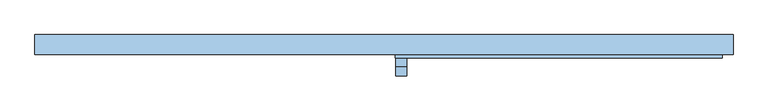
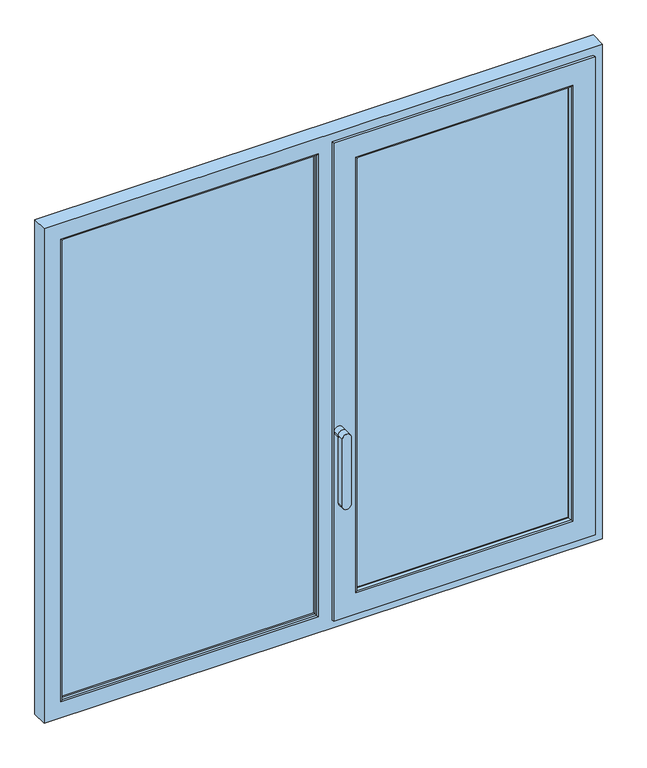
"""IFC4 building model written with IfcOpenShell, lengths in millimetres: window geometry, Single sash with fix filed : Single sash with fix filed."""

from ifc_helpers import new_model, si_unit, frame, origin, place, context, project, spatial, polyline, circle_curve, ellipse_curve, outline, extrude, source, transform, mapped, element, save
from ifc_brep_helpers import plane_surface, cylinder_surface, advanced_brep


def window_5d94b024(model_context):
    return source(origin(), model_context, "Body", "SolidModel", [
        advanced_brep(
        [(26.4, -65.0000609, 1402.0), (26.4, -65.0000609, 1202.0), (51.4, -65.0000609, 1202.0), (51.4, -65.0000609, 1402.0), (51.4, -45.0000609, 1402.0), (51.4, -45.0000609, 1202.0), (26.4, -45.0000609, 1202.0), (26.4, -45.0000609, 1402.0), (26.4, -25.0000609, 1402.0), (51.4, -25.0000609, 1402.0)],
        [
            (0, 1),
            (1, 2, circle_curve(frame((38.9, -65.0000609, 1202.0), z_axis=(0.0, -1.0, 0.0), x_axis=(1.0, 0.0, 0.0)), 12.5)),
            (2, 3),
            (3, 0, circle_curve(frame((38.9, -65.0000609, 1402.0), z_axis=(0.0, -1.0, 0.0), x_axis=(1.0, 0.0, 0.0)), 12.5)),
            (4, 5),
            (5, 6, circle_curve(frame((38.9, -45.0000609, 1202.0), z_axis=(0.0, 1.0, 0.0), x_axis=(1.0, 0.0, 0.0)), 12.5)),
            (6, 7),
            (7, 4, circle_curve(frame((38.9, -45.0000609, 1402.0), z_axis=(0.0, -1.0, 0.0), x_axis=(1.0, 0.0, 0.0)), 12.5)),
            (0, 7),
            (6, 1),
            (5, 2),
            (4, 3),
            (4, 7, circle_curve(frame((38.9, -45.0000609, 1402.0), z_axis=(0.0, -1.0, 0.0), x_axis=(1.0, 0.0, 0.0)), 12.5)),
            (8, 9, circle_curve(frame((38.9, -25.0000609, 1402.0), z_axis=(0.0, 1.0, 0.0), x_axis=(1.0, 0.0, 0.0)), 12.5)),
            (9, 8, circle_curve(frame((38.9, -25.0000609, 1402.0), z_axis=(0.0, 1.0, 0.0), x_axis=(1.0, 0.0, 0.0)), 12.5)),
            (9, 4),
            (7, 8),
        ],
        [
            plane_surface(frame((26.4, -65.0000609, 1402.0), z_axis=(0.0, -1.0, 0.0), x_axis=(0.0, 0.0, -1.0))),
            plane_surface(frame((26.4, -45.0000609, 1402.0), z_axis=(0.0, 1.0, 0.0), x_axis=(0.0, 0.0, 1.0))),
            plane_surface(frame((26.4, -65.0000609, 1402.0), z_axis=(-1.0, 0.0, 0.0), x_axis=(0.0, 1.0, 0.0))),
            cylinder_surface(frame((38.9, -45.0000609, 1202.0), z_axis=(0.0, -1.0, 0.0), x_axis=(1.0, 0.0, 0.0)), 12.5),
            plane_surface(frame((51.4, -65.0000609, 1202.0), z_axis=(1.0, 0.0, 0.0), x_axis=(0.0, 1.0, 0.0))),
            cylinder_surface(frame((38.9, -45.0000609, 1402.0), z_axis=(0.0, -1.0, 0.0), x_axis=(1.0, 0.0, 0.0)), 12.5),
            plane_surface(frame((51.4, -25.0000609, 1402.0), z_axis=(0.0, 1.0, 0.0), x_axis=(0.0, 0.0, -1.0))),
            cylinder_surface(frame((38.9, -25.0000609, 1402.0), z_axis=(0.0, -1.0, 0.0), x_axis=(1.0, 0.0, 0.0)), 12.5),
        ],
        [
            (0, [[1, 2, 3, 4]]),
            (1, [[5, 6, 7, 8]]),
            (2, [[-1, 9, -7, 10]]),
            (3, [[-2, -10, -6, 11]]),
            (4, [[-3, -11, -5, 12]]),
            (5, [[-4, -12, 13, -9]]),
            (6, [[14, 15]]),
            (7, [[-15, 16, -8, 17]]),
            (7, [[-14, -17, -13, -16]]),
        ],
    ),
        extrude(outline(polyline([(78.4966345, 12.9350572), (711.5033655, 12.9350572), (711.5033655, -11.0649428), (78.4966345, -11.0649428), (78.4966345, 12.9350572)])), frame((0.0, 0.0, 888.4966345), z_axis=(0.0, 0.0, 1.0), x_axis=(1.0, 0.0, 0.0)), (0.0, 0.0, 1.0), 1323.006731),
        advanced_brep(
        [(698.2794983, -22.8333998, 2198.2794983), (696.499977, -15.5000609, 2196.499977), (696.499977, -15.5000609, 903.500023), (698.2794983, -22.8333998, 901.7205017), (696.499977, -11.0649428, 2196.499977), (696.499977, -11.0649428, 903.500023), (93.500023, -15.5000609, 903.500023), (91.7205017, -22.8333998, 901.7205017), (701.834617, -25.0000609, 2201.834617), (701.834617, -25.0000609, 898.165383), (711.5033655, -11.0649428, 888.4966345), (78.4966345, -11.0649428, 888.4966345), (78.4966345, -11.0649428, 2211.5033655), (711.5033655, -11.0649428, 2211.5033655), (93.500023, -11.0649428, 2196.499977), (93.500023, -11.0649428, 903.500023), (711.5033655, 12.9350572, 2211.5033655), (711.5033655, 12.9350572, 888.4966345), (78.4966345, 12.9350572, 2211.5033655), (78.4966345, 12.9350572, 888.4966345), (696.499969, 12.9350572, 903.500031), (93.500031, 12.9350572, 903.500031), (93.500031, 12.9350572, 2196.499969), (696.499969, 12.9350572, 2196.499969), (696.499969, 22.5000001, 2196.499969), (696.499969, 22.5000001, 903.500031), (701.999969, 28.0000001, 2201.999969), (701.999969, 28.0000001, 898.000031), (93.500031, 22.5000001, 903.500031), (731.9999918, 28.0, 868.0000082), (58.0000082, 28.0, 868.0000082), (58.0000082, 28.0, 2231.9999918), (731.9999918, 28.0, 2231.9999918), (88.000031, 28.0, 2201.999969), (88.000031, 28.0, 898.000031), (731.9999918, 20.0000001, 2231.9999918), (731.9999918, 20.0000001, 868.0000082), (747.4999476, 20.0000001, 852.5000524), (42.5000524, 20.0000001, 852.5000524), (42.5000524, 20.0000001, 2247.4999476), (747.4999476, 20.0000001, 2247.4999476), (58.0000082, 20.0000001, 2231.9999918), (58.0000082, 20.0000001, 868.0000082), (747.4999476, -17.0083924, 2247.4999476), (747.4999476, -17.0083924, 852.5000524), (765.0, -17.0083924, 835.0), (25.0, -17.0083924, 835.0), (25.0, -17.0083924, 2265.0), (765.0, -17.0083924, 2265.0), (42.5000524, -17.0083924, 2247.4999476), (42.5000524, -17.0083924, 852.5000524), (765.0, -25.0000609, 2265.0), (765.0, -25.0000609, 835.0), (25.0, -25.0000609, 2265.0), (25.0, -25.0000609, 835.0), (88.165383, -25.0000609, 898.165383), (88.165383, -25.0000609, 2201.834617), (93.500023, -15.5000609, 2196.499977), (91.7205017, -22.8333998, 2198.2794983), (93.500031, 22.5000001, 2196.499969)],
        [
            (0, 1, ellipse_curve(frame((712.499941, -15.5000609, 2212.499941), z_axis=(0.7071067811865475, 0.0, -0.7071067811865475), x_axis=(0.7071067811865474, 0.0, 0.7071067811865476)), 22.6273661, 15.999964)),
            (1, 2),
            (2, 3, ellipse_curve(frame((712.499941, -15.5000609, 887.500059), z_axis=(0.7071067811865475, 0.0, 0.7071067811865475), x_axis=(-0.7071067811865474, 0.0, 0.7071067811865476)), 22.6273661, 15.999964)),
            (3, 0),
            (1, 4),
            (4, 5),
            (5, 2),
            (2, 6),
            (6, 7, ellipse_curve(frame((77.500059, -15.5000609, 887.500059), z_axis=(0.7071067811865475, 0.0, -0.7071067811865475), x_axis=(0.7071067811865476, 0.0, 0.7071067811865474)), 22.6273661, 15.999964)),
            (7, 3),
            (8, 0, ellipse_curve(frame((701.834617, -21.0000609, 2201.834617), z_axis=(0.7071067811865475, 0.0, -0.7071067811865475), x_axis=(0.7071067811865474, 0.0, 0.7071067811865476)), 5.6568542, 4.0)),
            (3, 9, ellipse_curve(frame((701.834617, -21.0000609, 898.165383), z_axis=(0.7071067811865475, 0.0, 0.7071067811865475), x_axis=(-0.7071067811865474, 0.0, 0.7071067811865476)), 5.6568542, 4.0)),
            (9, 8),
            (10, 11),
            (11, 12),
            (12, 13),
            (13, 10),
            (4, 14),
            (14, 15),
            (15, 5),
            (15, 6),
            (13, 16),
            (16, 17),
            (17, 10),
            (16, 18),
            (18, 19),
            (19, 17),
            (20, 21),
            (21, 22),
            (22, 23),
            (23, 20),
            (19, 11),
            (23, 24),
            (24, 25),
            (25, 20),
            (24, 26, ellipse_curve(frame((701.999969, 22.5000001, 2201.999969), z_axis=(0.7071067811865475, 0.0, -0.7071067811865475), x_axis=(0.7071067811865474, 0.0, 0.7071067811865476)), 7.7781746, 5.5)),
            (26, 27),
            (27, 25, ellipse_curve(frame((701.999969, 22.5000001, 898.000031), z_axis=(0.7071067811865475, 0.0, 0.7071067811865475), x_axis=(-0.7071067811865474, 0.0, 0.7071067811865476)), 7.7781746, 5.5)),
            (25, 28),
            (28, 21),
            (29, 30),
            (30, 31),
            (31, 32),
            (32, 29),
            (26, 33),
            (33, 34),
            (34, 27),
            (34, 28, ellipse_curve(frame((88.000031, 22.5000001, 898.000031), z_axis=(0.7071067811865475, 0.0, -0.7071067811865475), x_axis=(0.7071067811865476, 0.0, 0.7071067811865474)), 7.7781746, 5.5)),
            (32, 35),
            (35, 36),
            (36, 29),
            (37, 38),
            (38, 39),
            (39, 40),
            (40, 37),
            (35, 41),
            (41, 42),
            (42, 36),
            (42, 30),
            (40, 43),
            (43, 44),
            (44, 37),
            (45, 46),
            (46, 47),
            (47, 48),
            (48, 45),
            (43, 49),
            (49, 50),
            (50, 44),
            (50, 38),
            (48, 51),
            (51, 52),
            (52, 45),
            (51, 53),
            (53, 54),
            (54, 52),
            (9, 55),
            (55, 56),
            (56, 8),
            (54, 46),
            (7, 55, ellipse_curve(frame((88.165383, -21.0000609, 898.165383), z_axis=(0.7071067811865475, 0.0, -0.7071067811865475), x_axis=(0.7071067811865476, 0.0, 0.7071067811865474)), 5.6568542, 4.0)),
            (6, 57),
            (57, 58, ellipse_curve(frame((77.500059, -15.5000609, 2212.499941), z_axis=(-0.7071067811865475, 0.0, -0.7071067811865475), x_axis=(0.7071067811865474, 0.0, -0.7071067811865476)), 22.6273661, 15.999964)),
            (58, 7),
            (14, 57),
            (18, 12),
            (28, 59),
            (59, 22),
            (33, 59, ellipse_curve(frame((88.000031, 22.5000001, 2201.999969), z_axis=(-0.7071067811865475, 0.0, -0.7071067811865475), x_axis=(0.7071067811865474, 0.0, -0.7071067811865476)), 7.7781746, 5.5)),
            (41, 31),
            (49, 39),
            (53, 47),
            (58, 56, ellipse_curve(frame((88.165383, -21.0000609, 2201.834617), z_axis=(-0.7071067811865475, 0.0, -0.7071067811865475), x_axis=(0.7071067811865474, 0.0, -0.7071067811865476)), 5.6568542, 4.0)),
            (57, 1),
            (0, 58),
            (59, 24),
        ],
        [
            cylinder_surface(frame((712.499941, -15.5000609, 2290.0), z_axis=(0.0, 0.0, 1.0), x_axis=(-1.0, 0.0, 0.0)), 15.999964),
            plane_surface(frame((696.499977, -11.0649428, 2196.499977), z_axis=(-1.0, 0.0, 0.0), x_axis=(0.0, 0.0, -1.0))),
            cylinder_surface(frame((790.0, -15.5000609, 887.500059), z_axis=(1.0, 0.0, 0.0), x_axis=(0.0, 0.0, 1.0)), 15.999964),
            cylinder_surface(frame((701.834617, -21.0000609, 2290.0), z_axis=(0.0, 0.0, 1.0000000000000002), x_axis=(-0.8887804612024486, -0.4583331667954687, 0.0)), 4.0),
            plane_surface(frame((78.4966345, -11.0649428, 2211.5033655), z_axis=(0.0, 1.0, 0.0), x_axis=(1.0, 0.0, 0.0))),
            plane_surface(frame((696.499977, -11.0649428, 903.500023), z_axis=(0.0, 0.0, 1.0), x_axis=(-1.0, 0.0, 0.0))),
            plane_surface(frame((711.5033655, 12.9350572, 2211.5033655), z_axis=(-1.0, 0.0, 0.0), x_axis=(0.0, 0.0, -1.0))),
            plane_surface(frame((93.500031, 12.9350572, 2196.499969), z_axis=(0.0, -1.0, 0.0), x_axis=(1.0, 0.0, 0.0))),
            plane_surface(frame((711.5033655, 12.9350572, 888.4966345), z_axis=(0.0, 0.0, 1.0), x_axis=(-1.0, 0.0, 0.0))),
            plane_surface(frame((696.499969, 22.5000001, 2196.499969), z_axis=(-1.0, 0.0, 0.0), x_axis=(0.0, 0.0, -1.0))),
            cylinder_surface(frame((701.999969, 22.5000001, 2290.0), z_axis=(0.0, 0.0, 1.0), x_axis=(0.0, 1.0, 0.0)), 5.5),
            plane_surface(frame((696.499969, 22.5000001, 903.500031), z_axis=(0.0, 0.0, 1.0), x_axis=(-1.0, 0.0, 0.0))),
            plane_surface(frame((58.0000082, 28.0, 2231.9999918), z_axis=(0.0, 1.0, 0.0), x_axis=(1.0, 0.0, 0.0))),
            cylinder_surface(frame((790.0, 22.5000001, 898.000031), z_axis=(1.0, 0.0, 0.0), x_axis=(0.0, 1.0, 0.0)), 5.5),
            plane_surface(frame((731.9999918, 20.0000001, 2231.9999918), z_axis=(1.0, 0.0, 0.0), x_axis=(0.0, 0.0, -1.0))),
            plane_surface(frame((42.5000524, 20.0000001, 2247.4999476), z_axis=(0.0, 1.0, 0.0), x_axis=(1.0, 0.0, 0.0))),
            plane_surface(frame((731.9999918, 20.0000001, 868.0000082), z_axis=(0.0, 0.0, -1.0), x_axis=(-1.0, 0.0, 0.0))),
            plane_surface(frame((747.4999476, -17.0083924, 2247.4999476), z_axis=(1.0, 0.0, 0.0), x_axis=(0.0, 0.0, -1.0))),
            plane_surface(frame((25.0, -17.0083924, 2265.0), z_axis=(0.0, 1.0, 0.0), x_axis=(1.0, 0.0, 0.0))),
            plane_surface(frame((747.4999476, -17.0083924, 852.5000524), z_axis=(0.0, 0.0, -1.0), x_axis=(-1.0, 0.0, 0.0))),
            plane_surface(frame((765.0, -25.0000609, 2265.0), z_axis=(1.0, 0.0, 0.0), x_axis=(0.0, 0.0, -1.0))),
            plane_surface(frame((88.165383, -25.0000609, 2201.834617), z_axis=(0.0, -1.0, 0.0), x_axis=(1.0, 0.0, 0.0))),
            plane_surface(frame((765.0, -25.0000609, 835.0), z_axis=(0.0, 0.0, -1.0), x_axis=(-1.0, 0.0, 0.0))),
            cylinder_surface(frame((790.0, -21.0000609, 898.165383), z_axis=(1.0000000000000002, 0.0, 0.0), x_axis=(0.0, -0.4583331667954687, 0.8887804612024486)), 4.0),
            cylinder_surface(frame((77.500059, -15.5000609, 810.0), z_axis=(0.0, 0.0, -1.0), x_axis=(1.0, 0.0, 0.0)), 15.999964),
            plane_surface(frame((93.500023, -11.0649428, 903.500023), z_axis=(1.0, 0.0, 0.0), x_axis=(0.0, 0.0, 1.0))),
            plane_surface(frame((78.4966345, 12.9350572, 888.4966345), z_axis=(1.0, 0.0, 0.0), x_axis=(0.0, 0.0, 1.0))),
            plane_surface(frame((93.500031, 22.5000001, 903.500031), z_axis=(1.0, 0.0, 0.0), x_axis=(0.0, 0.0, 1.0))),
            cylinder_surface(frame((88.000031, 22.5000001, 810.0), z_axis=(0.0, 0.0, -1.0), x_axis=(0.0, 1.0, 0.0)), 5.5),
            plane_surface(frame((58.0000082, 20.0000001, 868.0000082), z_axis=(-1.0, 0.0, 0.0), x_axis=(0.0, 0.0, 1.0))),
            plane_surface(frame((42.5000524, -17.0083924, 852.5000524), z_axis=(-1.0, 0.0, 0.0), x_axis=(0.0, 0.0, 1.0))),
            plane_surface(frame((25.0, -25.0000609, 835.0), z_axis=(-1.0, 0.0, 0.0), x_axis=(0.0, 0.0, 1.0))),
            cylinder_surface(frame((88.165383, -21.0000609, 810.0), z_axis=(0.0, 0.0, -1.0000000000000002), x_axis=(0.8887804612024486, -0.4583331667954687, 0.0)), 4.0),
            cylinder_surface(frame((0.0, -15.5000609, 2212.499941), z_axis=(-1.0, 0.0, 0.0), x_axis=(0.0, 0.0, -1.0)), 15.999964),
            plane_surface(frame((93.500023, -11.0649428, 2196.499977), z_axis=(0.0, 0.0, -1.0), x_axis=(1.0, 0.0, 0.0))),
            plane_surface(frame((78.4966345, 12.9350572, 2211.5033655), z_axis=(0.0, 0.0, -1.0), x_axis=(1.0, 0.0, 0.0))),
            plane_surface(frame((93.500031, 22.5000001, 2196.499969), z_axis=(0.0, 0.0, -1.0), x_axis=(1.0, 0.0, 0.0))),
            cylinder_surface(frame((0.0, 22.5000001, 2201.999969), z_axis=(-1.0, 0.0, 0.0), x_axis=(0.0, 1.0, 0.0)), 5.5),
            plane_surface(frame((58.0000082, 20.0000001, 2231.9999918), z_axis=(0.0, 0.0, 1.0), x_axis=(1.0, 0.0, 0.0))),
            plane_surface(frame((42.5000524, -17.0083924, 2247.4999476), z_axis=(0.0, 0.0, 1.0), x_axis=(1.0, 0.0, 0.0))),
            plane_surface(frame((25.0, -25.0000609, 2265.0), z_axis=(0.0, 0.0, 1.0), x_axis=(1.0, 0.0, 0.0))),
            cylinder_surface(frame((0.0, -21.0000609, 2201.834617), z_axis=(-1.0000000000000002, 0.0, 0.0), x_axis=(0.0, -0.4583331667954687, -0.8887804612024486)), 4.0),
        ],
        [
            (0, [[1, 2, 3, 4]]),
            (1, [[5, 6, 7, -2]]),
            (2, [[-3, 8, 9, 10]]),
            (3, [[11, -4, 12, 13]]),
            (4, [[14, 15, 16, 17], [18, 19, 20, -6]]),
            (5, [[-7, -20, 21, -8]]),
            (6, [[22, 23, 24, -17]]),
            (7, [[25, 26, 27, -23], [28, 29, 30, 31]]),
            (8, [[-24, -27, 32, -14]]),
            (9, [[33, 34, 35, -31]]),
            (10, [[36, 37, 38, -34]]),
            (11, [[-35, 39, 40, -28]]),
            (12, [[41, 42, 43, 44], [45, 46, 47, -37]]),
            (13, [[-38, -47, 48, -39]]),
            (14, [[49, 50, 51, -44]]),
            (15, [[52, 53, 54, 55], [56, 57, 58, -50]]),
            (16, [[-51, -58, 59, -41]]),
            (17, [[60, 61, 62, -55]]),
            (18, [[63, 64, 65, 66], [67, 68, 69, -61]]),
            (19, [[-62, -69, 70, -52]]),
            (20, [[71, 72, 73, -66]]),
            (21, [[74, 75, 76, -72], [77, 78, 79, -13]]),
            (22, [[-73, -76, 80, -63]]),
            (23, [[-12, -10, 81, -77]]),
            (24, [[-9, 82, 83, 84]]),
            (25, [[-21, -19, 85, -82]]),
            (26, [[-32, -26, 86, -15]]),
            (27, [[-40, 87, 88, -29]]),
            (28, [[-48, -46, 89, -87]]),
            (29, [[-59, -57, 90, -42]]),
            (30, [[-70, -68, 91, -53]]),
            (31, [[-80, -75, 92, -64]]),
            (32, [[-81, -84, 93, -78]]),
            (33, [[-83, 94, -1, 95]]),
            (34, [[-85, -18, -5, -94]]),
            (35, [[-86, -25, -22, -16]]),
            (36, [[-88, 96, -33, -30]]),
            (37, [[-89, -45, -36, -96]]),
            (38, [[-90, -56, -49, -43]]),
            (39, [[-91, -67, -60, -54]]),
            (40, [[-92, -74, -71, -65]]),
            (41, [[-93, -95, -11, -79]]),
        ],
    ),
        extrude(outline(polyline([(-3.996137, -3.0648819), (-752.0033965, -3.0648819), (-752.0033965, 20.9351181), (-3.996137, 20.9351181), (-3.996137, -3.0648819)])), frame((0.0, 0.0, 847.9966035), z_axis=(0.0, 0.0, 1.0), x_axis=(1.0, 0.0, 0.0)), (0.0, 0.0, 1.0), 1404.006793),
        advanced_brep(
        [(31.0, -17.0, 841.0), (31.0, 20.0083925, 841.0), (31.0, 20.0083925, 2259.0), (31.0, -17.0, 2259.0), (759.0, -17.0, 841.0), (759.0, 20.0083925, 841.0), (759.0, 20.0083925, 2259.0), (737.0, 20.0083925, 2237.0), (737.0, 20.0083925, 863.0), (53.0003923, 20.0083925, 863.0), (53.0003923, 20.0083925, 2237.0), (-790.0, -17.0, 2290.0), (-790.0, -17.0, 810.0), (790.0, -17.0, 810.0), (790.0, -17.0, 2290.0), (759.0, -17.0, 2259.0), (-742.334648, -17.0, 857.665352), (-742.334648, -17.0, 2242.334648), (-13.6648855, -17.0, 2242.334648), (-13.6648855, -17.0, 857.665352), (-752.0033965, -3.0648819, 847.9966035), (-752.0033965, -3.0648819, 2252.0033965), (-3.996137, -3.0648819, 2252.0033965), (-3.996137, -3.0648819, 847.9966035), (-737.000008, -3.0648819, 2237.000008), (-737.000008, -3.0648819, 862.999992), (-18.9995255, -3.0648819, 862.999992), (-18.9995255, -3.0648819, 2237.000008), (-737.000008, -7.5, 2237.000008), (-737.000008, -7.5, 862.999992), (-18.9995255, -7.5, 862.999992), (-18.9995255, -7.5, 2237.000008), (-752.0033965, 20.9351181, 847.9966035), (-752.0033965, 20.9351181, 2252.0033965), (-3.996137, 20.9351181, 2252.0033965), (-3.996137, 20.9351181, 847.9966035), (-737.0, 20.9351181, 2237.0), (-18.9995645, 20.9351181, 2237.0), (-18.9995645, 20.9351181, 863.0), (-737.0, 20.9351181, 863.0), (-18.9995645, 27.500012, 2237.0), (-18.9995645, 27.500012, 863.0), (-737.0, 28.0, 863.0), (53.0003923, 27.500012, 863.0), (737.0, 28.0, 863.0), (-737.0, 28.0, 2237.0), (-790.0, 28.0, 810.0), (-790.0, 28.0, 2290.0), (790.0, 28.0, 2290.0), (790.0, 28.0, 810.0), (737.0, 28.0, 2237.0), (-738.7795293, -14.8333388, 861.2204707), (-738.7795293, -14.8333388, 2238.7795293), (-17.2200042, -14.8333388, 2238.7795293), (-17.2200042, -14.8333388, 861.2204707), (53.0003923, 27.500012, 2237.0)],
        [
            (0, 1),
            (1, 2),
            (2, 3),
            (3, 0),
            (0, 4),
            (4, 5),
            (5, 1),
            (5, 6),
            (6, 2),
            (7, 8),
            (8, 9),
            (9, 10),
            (10, 7),
            (11, 12),
            (12, 13),
            (13, 14),
            (14, 11),
            (3, 15),
            (15, 4),
            (16, 17),
            (17, 18),
            (18, 19),
            (19, 16),
            (20, 21),
            (21, 22),
            (22, 23),
            (23, 20),
            (24, 25),
            (25, 26),
            (26, 27),
            (27, 24),
            (24, 28),
            (28, 29),
            (29, 25),
            (29, 30),
            (30, 26),
            (30, 31),
            (31, 27),
            (20, 32),
            (32, 33),
            (33, 21),
            (22, 34),
            (34, 35),
            (35, 23),
            (35, 32),
            (34, 33),
            (36, 37),
            (37, 38),
            (38, 39),
            (39, 36),
            (37, 40),
            (40, 41),
            (41, 38),
            (42, 39),
            (41, 43),
            (43, 9),
            (8, 44),
            (44, 42),
            (42, 45),
            (45, 36),
            (46, 47),
            (47, 48),
            (48, 49),
            (49, 46),
            (44, 50),
            (50, 45),
            (7, 50),
            (46, 12),
            (11, 47),
            (48, 14),
            (13, 49),
            (16, 51, ellipse_curve(frame((-742.334648, -13.0, 857.665352), z_axis=(-0.7071067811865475, 0.0, 0.7071067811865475), x_axis=(0.7071067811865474, 0.0, 0.7071067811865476)), 5.6568542, 4.0)),
            (51, 52),
            (52, 17, ellipse_curve(frame((-742.334648, -13.0, 2242.334648), z_axis=(-0.7071067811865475, 0.0, -0.7071067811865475), x_axis=(-0.7071067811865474, 0.0, 0.7071067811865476)), 5.6568542, 4.0)),
            (53, 54),
            (54, 19, ellipse_curve(frame((-13.6648855, -13.0, 857.665352), z_axis=(0.7071067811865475, 0.0, 0.7071067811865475), x_axis=(-0.7071067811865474, 0.0, 0.7071067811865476)), 5.6568542, 4.0)),
            (18, 53, ellipse_curve(frame((-13.6648855, -13.0, 2242.334648), z_axis=(0.7071067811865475, 0.0, -0.7071067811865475), x_axis=(0.7071067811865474, 0.0, 0.7071067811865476)), 5.6568542, 4.0)),
            (54, 51),
            (15, 6),
            (28, 52, ellipse_curve(frame((-752.999972, -7.5, 2252.999972), z_axis=(-0.7071067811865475, 0.0, -0.7071067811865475), x_axis=(-0.7071067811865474, 0.0, 0.7071067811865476)), 22.6273661, 15.999964)),
            (51, 29, ellipse_curve(frame((-752.999972, -7.5, 847.000028), z_axis=(-0.7071067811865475, 0.0, 0.7071067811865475), x_axis=(0.7071067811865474, 0.0, 0.7071067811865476)), 22.6273661, 15.999964)),
            (54, 30, ellipse_curve(frame((-2.9995615, -7.5, 847.000028), z_axis=(-0.7071067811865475, 0.0, -0.7071067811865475), x_axis=(-0.7071067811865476, 0.0, 0.7071067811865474)), 22.6273661, 15.999964)),
            (53, 31, ellipse_curve(frame((-2.9995615, -7.5, 2252.999972), z_axis=(0.7071067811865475, 0.0, -0.7071067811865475), x_axis=(0.7071067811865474, 0.0, 0.7071067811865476)), 22.6273661, 15.999964)),
            (55, 43),
            (40, 55),
            (55, 10),
            (28, 31),
            (53, 52),
        ],
        [
            plane_surface(frame((31.0, -17.0, 2290.0), z_axis=(1.0, 0.0, 0.0), x_axis=(0.0, -1.0, 0.0))),
            plane_surface(frame((759.0, 20.0083925, 841.0), z_axis=(0.0, 0.0, 1.0), x_axis=(-1.0, 0.0, 0.0))),
            plane_surface(frame((31.0, 20.0083925, 2237.0), z_axis=(0.0, -1.0, 0.0), x_axis=(1.0, 0.0, 0.0))),
            plane_surface(frame((31.0, -17.0, 2290.0), z_axis=(0.0, -1.0, 0.0), x_axis=(-1.0, 0.0, 0.0))),
            plane_surface(frame((31.0, -3.0648819, 2237.000008), z_axis=(0.0, 1.0, 0.0), x_axis=(-1.0, 0.0, 0.0))),
            plane_surface(frame((-737.000008, -7.5, 2237.000008), z_axis=(1.0, 0.0, 0.0), x_axis=(0.0, 0.0, -1.0))),
            plane_surface(frame((-737.000008, -7.5, 862.999992), z_axis=(0.0, 0.0, 1.0), x_axis=(1.0, 0.0, 0.0))),
            plane_surface(frame((-18.9995255, -3.0648819, 2290.0), z_axis=(-1.0, 0.0, 0.0), x_axis=(0.0, 0.0, -1.0))),
            plane_surface(frame((-752.0033965, -3.0648819, 2252.0033965), z_axis=(1.0, 0.0, 0.0), x_axis=(0.0, 0.0, -1.0))),
            plane_surface(frame((-3.996137, 20.9351181, 2290.0), z_axis=(-1.0, 0.0, 0.0), x_axis=(0.0, 0.0, -1.0))),
            plane_surface(frame((-752.0033965, -3.0648819, 847.9966035), z_axis=(0.0, 0.0, 1.0), x_axis=(1.0, 0.0, 0.0))),
            plane_surface(frame((31.0, 20.9351181, 2252.0033965), z_axis=(0.0, -1.0, 0.0), x_axis=(-1.0, 0.0, 0.0))),
            plane_surface(frame((-18.9995645, 27.500012, 2290.0), z_axis=(-1.0, 0.0, 0.0), x_axis=(0.0, 0.0, -1.0))),
            plane_surface(frame((-737.0, 20.9351181, 863.0), z_axis=(0.0, 0.0, 1.0), x_axis=(1.0, 0.0, 0.0))),
            plane_surface(frame((-737.0, 20.9351181, 2237.0), z_axis=(1.0, 0.0, 0.0), x_axis=(0.0, 0.0, -1.0))),
            plane_surface(frame((31.0, 28.0, 2237.0), z_axis=(0.0, 1.0, 0.0), x_axis=(-1.0, 0.0, 0.0))),
            plane_surface(frame((737.0, 28.0, 2237.0), z_axis=(-1.0, 0.0, 0.0), x_axis=(0.0, 0.0, -1.0))),
            plane_surface(frame((-790.0, 28.0, 2290.0), z_axis=(-1.0, 0.0, 0.0), x_axis=(0.0, 0.0, -1.0))),
            plane_surface(frame((790.0, -17.0, 2290.0), z_axis=(1.0, 0.0, 0.0), x_axis=(0.0, 0.0, -1.0))),
            plane_surface(frame((-790.0, 28.0, 810.0), z_axis=(0.0, 0.0, -1.0), x_axis=(1.0, 0.0, 0.0))),
            cylinder_surface(frame((-742.334648, -13.0, 2290.0), z_axis=(0.0, 0.0, 1.0), x_axis=(0.0, -1.0, 0.0)), 4.0),
            cylinder_surface(frame((-13.6648855, -13.0, 2290.0), z_axis=(0.0, 0.0, 1.0), x_axis=(-0.8887804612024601, -0.4583331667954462, 0.0)), 4.0),
            cylinder_surface(frame((-790.0, -13.0, 857.665352), z_axis=(-1.0, 0.0, 0.0), x_axis=(0.0, -1.0, 0.0)), 4.0),
            plane_surface(frame((759.0, 20.0083925, 2259.0), z_axis=(-1.0, 0.0, 0.0), x_axis=(0.0, 0.0, -1.0))),
            cylinder_surface(frame((-752.999972, -7.5, 2290.0), z_axis=(0.0, 0.0, 1.0), x_axis=(0.8887798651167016, -0.4583343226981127, 0.0)), 15.999964),
            cylinder_surface(frame((-790.0, -7.5, 847.000028), z_axis=(-1.0, 0.0, 0.0), x_axis=(0.0, -0.4583343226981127, 0.8887798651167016)), 15.999964),
            cylinder_surface(frame((-2.9995615, -7.5, 2290.0), z_axis=(0.0, 0.0, 1.0), x_axis=(-1.0, 0.0, 0.0)), 15.999964),
            plane_surface(frame((53.0003923, 27.500012, 2290.0), z_axis=(0.0, 1.0, 0.0), x_axis=(0.0, 0.0, -1.0))),
            plane_surface(frame((53.0003923, 19.9998797, 2290.0), z_axis=(1.0, 0.0, 0.0), x_axis=(0.0, 0.0, -1.0))),
            cylinder_surface(frame((31.0, -7.5, 2252.999972), z_axis=(1.0, 0.0, 0.0), x_axis=(0.0, -0.4583343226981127, -0.8887798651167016)), 15.999964),
            plane_surface(frame((31.0, -7.5, 2237.000008), z_axis=(0.0, 0.0, -1.0), x_axis=(-1.0, 0.0, 0.0))),
            plane_surface(frame((31.0, -3.0648819, 2252.0033965), z_axis=(0.0, 0.0, -1.0), x_axis=(-1.0, 0.0, 0.0))),
            plane_surface(frame((31.0, 20.9351181, 2237.0), z_axis=(0.0, 0.0, -1.0), x_axis=(-1.0, 0.0, 0.0))),
            plane_surface(frame((31.0, 28.0, 2290.0), z_axis=(0.0, 0.0, 1.0), x_axis=(-1.0, 0.0, 0.0))),
            cylinder_surface(frame((31.0, -13.0, 2242.334648), z_axis=(1.0, 0.0, 0.0), x_axis=(0.0, -1.0, 0.0)), 4.0),
            plane_surface(frame((31.0, 20.0083925, 2259.0), z_axis=(0.0, 0.0, -1.0), x_axis=(1.0, 0.0, 0.0))),
        ],
        [
            (0, [[1, 2, 3, 4]]),
            (1, [[5, 6, 7, -1]]),
            (2, [[-2, -7, 8, 9], [10, 11, 12, 13]]),
            (3, [[14, 15, 16, 17], [-4, 18, 19, -5], [20, 21, 22, 23]]),
            (4, [[24, 25, 26, 27], [28, 29, 30, 31]]),
            (5, [[32, 33, 34, -28]]),
            (6, [[-34, 35, 36, -29]]),
            (7, [[-30, -36, 37, 38]]),
            (8, [[-24, 39, 40, 41]]),
            (9, [[-26, 42, 43, 44]]),
            (10, [[45, -39, -27, -44]]),
            (11, [[-40, -45, -43, 46], [47, 48, 49, 50]]),
            (12, [[-48, 51, 52, 53]]),
            (13, [[54, -49, -53, 55, 56, -11, 57, 58]]),
            (14, [[-50, -54, 59, 60]]),
            (15, [[61, 62, 63, 64], [-59, -58, 65, 66]]),
            (16, [[-65, -57, -10, 67]]),
            (17, [[-61, 68, -14, 69]]),
            (18, [[70, -16, 71, -63]]),
            (19, [[-15, -68, -64, -71]]),
            (20, [[-20, 72, 73, 74]]),
            (21, [[75, 76, -22, 77]]),
            (22, [[-72, -23, -76, 78]]),
            (23, [[-8, -6, -19, 79]]),
            (24, [[80, -73, 81, -33]]),
            (25, [[-81, -78, 82, -35]]),
            (26, [[-75, 83, -37, -82]]),
            (27, [[84, -55, -52, 85]]),
            (28, [[-12, -56, -84, 86]]),
            (29, [[-80, 87, -83, 88]]),
            (30, [[-32, -31, -38, -87]]),
            (31, [[-25, -41, -46, -42]]),
            (32, [[-60, -66, -67, -13, -86, -85, -51, -47]]),
            (33, [[-69, -17, -70, -62]]),
            (34, [[-74, -88, -77, -21]]),
            (35, [[-9, -79, -18, -3]]),
        ],
    ),
    ])


if __name__ == "__main__":
    model = new_model("IFC4")
    model_context = context("Model", 3, world=origin())
    ifc_project = project(units=[si_unit("LENGTHUNIT", "METRE", prefix="MILLI")], contexts=[model_context])
    site = spatial("IfcSite", under=ifc_project)
    building = spatial("IfcBuilding", under=site)
    placement = place(None, origin())
    window_shape = window_5d94b024(model_context)
    element("IfcWindow", 1, ObjectType="Single sash with fix filed : Single sash with fix filed", at=placement, inside=building, context=model_context, shape_type="MappedRepresentation", body=[
        mapped(window_shape, transform((0.0, 0.0, 0.0), x_axis=(1.0, 0.0, 0.0), y_axis=(0.0, 1.0, 0.0), z_axis=(0.0, 0.0, 1.0))),
    ])
    save(model, "model.ifc")
